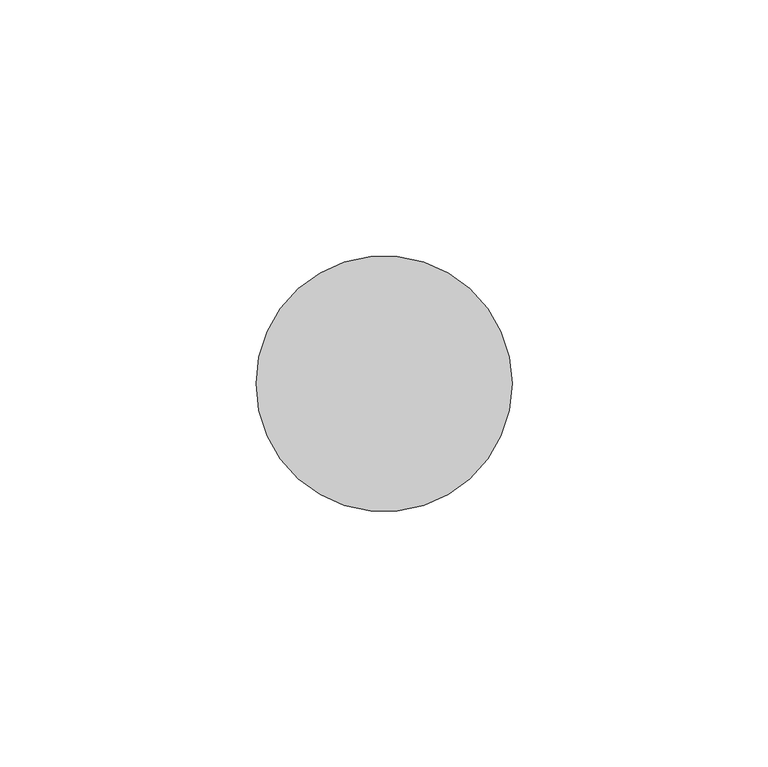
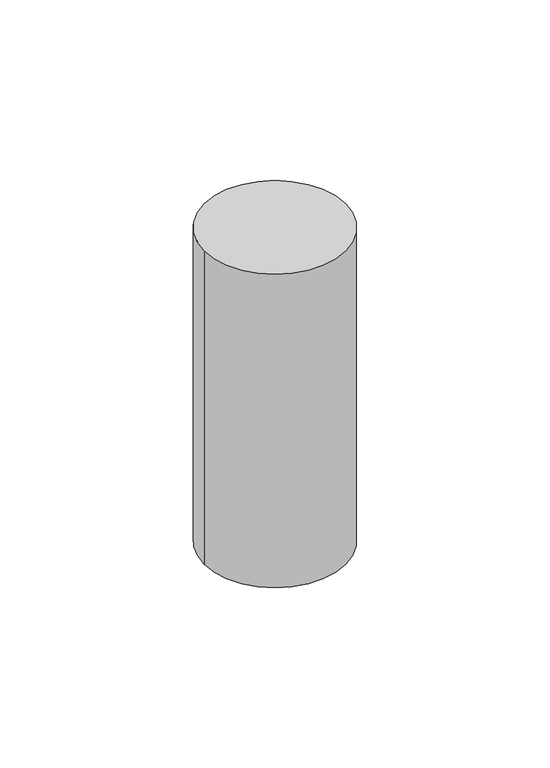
"""IFC4 building model written with IfcOpenShell, lengths in millimetres: member geometry, 圆形竖梃 : 25mm 半径."""

import ifcopenshell
import ifcopenshell.guid

model = None  # the IFC model being written
_history = None  # IfcOwnerHistory: only IFC2X3 demands one
_inside = {}  # id of a spatial element -> (the spatial element, [elements in it])
_under = {}  # id of a project, library or spatial element -> (it, [spatial elements below it])
_declared = {}  # id of a project -> (the project, [libraries it declares])
_typed = {}  # id of a type object -> (the type object, [elements of that type])
_made_of = {}  # id of a material, layer set ... -> (it, [elements and type objects made of it])


def new_model(schema):
    """Start an empty IFC model of exactly this schema.

    Asked for "IFC4X3", IfcOpenShell would pick the latest addendum, in which some entities
    have other attributes; the version numbers below select the first issue.
    IFC2X3 requires an IfcOwnerHistory on every rooted entity: one is made here for all.
    """
    global model, _history
    if schema == "IFC4X3":
        model = ifcopenshell.file(schema_version=(4, 3, 0, 0))
    else:
        model = ifcopenshell.file(schema=schema)
    _inside.clear()
    _under.clear()
    _declared.clear()
    _typed.clear()
    _made_of.clear()
    _history = None
    if model.schema == "IFC2X3":
        org = make("IfcOrganization", Name="unknown")
        user = make(
            "IfcPersonAndOrganization",
            ThePerson=make("IfcPerson", FamilyName="unknown"),
            TheOrganization=org,
        )
        app = make(
            "IfcApplication",
            ApplicationDeveloper=org,
            Version="unknown",
            ApplicationFullName="unknown",
            ApplicationIdentifier="unknown",
        )
        _history = make(
            "IfcOwnerHistory",
            OwningUser=user,
            OwningApplication=app,
            ChangeAction="ADDED",
            CreationDate=0,
        )
    return model


def make(cls, **values):
    """One entity of the class cls with the attributes given. An attribute that is None is left unset."""
    return model.create_entity(
        cls, **{name: value for name, value in values.items() if value is not None}
    )


def rooted(cls, **values):
    """An entity with a GlobalId (a new one), such as an element, a storey or a relation."""
    return make(cls, GlobalId=ifcopenshell.guid.new(), OwnerHistory=_history, **values)


def si_unit(unit_type, name, prefix=None):
    """IfcSIUnit, for example si_unit("LENGTHUNIT", "METRE", prefix="MILLI")."""
    return make("IfcSIUnit", UnitType=unit_type, Prefix=prefix, Name=name)


def assignment(units):
    """IfcUnitAssignment: the units of a project."""
    return None if units is None else make("IfcUnitAssignment", Units=units)


def point(xyz):
    """IfcCartesianPoint."""
    return None if xyz is None else make("IfcCartesianPoint", Coordinates=xyz)


def direction(xyz):
    """IfcDirection."""
    return None if xyz is None else make("IfcDirection", DirectionRatios=xyz)


def frame(location, z_axis=None, x_axis=None):
    """IfcAxis2Placement3D, a coordinate frame: its origin and axes. An axis left out is left unset."""
    return make(
        "IfcAxis2Placement3D",
        Location=point(location),
        Axis=direction(z_axis),
        RefDirection=direction(x_axis),
    )


def frame_2d(location, x_axis=None):
    """IfcAxis2Placement2D, a coordinate frame in the plane: its origin and x axis."""
    return make(
        "IfcAxis2Placement2D", Location=point(location), RefDirection=direction(x_axis)
    )


def origin():
    """The frame at (0, 0, 0) with its axes left unset."""
    return frame((0.0, 0.0, 0.0))


def place(relative_to, where):
    """IfcLocalPlacement: puts the frame where relative to a parent placement (None: the world)."""
    return make(
        "IfcLocalPlacement", PlacementRelTo=relative_to, RelativePlacement=where
    )


def context(
    kind, dimensions, precision=None, world=None, true_north=None, identifier=None
):
    """IfcGeometricRepresentationContext, for example the 3D "Model" context."""
    return make(
        "IfcGeometricRepresentationContext",
        ContextIdentifier=identifier,
        ContextType=kind,
        CoordinateSpaceDimension=dimensions,
        Precision=precision,
        WorldCoordinateSystem=world,
        TrueNorth=true_north,
    )


def project(units=None, contexts=None):
    """IfcProject with its units and contexts."""
    return rooted(
        "IfcProject",
        Name="project",
        RepresentationContexts=contexts,
        UnitsInContext=assignment(units),
    )


def spatial(cls, under=None, at=None, **own):
    """A site, building, storey or space (cls), placed at a placement, below another one or the project."""
    s = rooted(cls, ObjectPlacement=at, **own)
    if under is not None:
        _under.setdefault(under.id(), (under, []))[1].append(s)
    return s


def circle_curve(where, radius):
    """IfcCircle in the frame where."""
    return make("IfcCircle", Position=where, Radius=radius)


def trimmed(basis, trim1, trim2, sense, master):
    """IfcTrimmedCurve: the piece of a basis curve between two trims."""
    return make(
        "IfcTrimmedCurve",
        BasisCurve=basis,
        Trim1=trim1,
        Trim2=trim2,
        SenseAgreement=sense,
        MasterRepresentation=master,
    )


def segment(curve, same_sense, transition):
    """IfcCompositeCurveSegment."""
    return make(
        "IfcCompositeCurveSegment",
        Transition=transition,
        SameSense=same_sense,
        ParentCurve=curve,
    )


def composite_curve(segments, self_intersect=None):
    """IfcCompositeCurve: segments joined end to end."""
    return make("IfcCompositeCurve", Segments=segments, SelfIntersect=self_intersect)


def outline(outer, holes=None, kind="AREA"):
    """IfcArbitraryClosedProfileDef: a profile drawn as a closed curve; with holes, ...WithVoids."""
    if holes is None:
        return make("IfcArbitraryClosedProfileDef", ProfileType=kind, OuterCurve=outer)
    return make(
        "IfcArbitraryProfileDefWithVoids",
        ProfileType=kind,
        OuterCurve=outer,
        InnerCurves=holes,
    )


def extrude(swept, where, along, depth):
    """IfcExtrudedAreaSolid: the profile swept, set in the frame where, extruded along a direction by depth."""
    return make(
        "IfcExtrudedAreaSolid",
        SweptArea=swept,
        Position=where,
        ExtrudedDirection=direction(along),
        Depth=depth,
    )


def shape(context_of_items, identifier, shape_type, items):
    """IfcShapeRepresentation: the items that make up one representation, for example the "Body"."""
    return make(
        "IfcShapeRepresentation",
        ContextOfItems=context_of_items,
        RepresentationIdentifier=identifier,
        RepresentationType=shape_type,
        Items=items,
    )


def source(mapping_origin, context_of_items, identifier, shape_type, items):
    """IfcRepresentationMap: a shape defined once, which mapped items show again and again."""
    return make(
        "IfcRepresentationMap",
        MappingOrigin=mapping_origin,
        MappedRepresentation=shape(context_of_items, identifier, shape_type, items),
    )


def transform(
    local_origin,
    x_axis=None,
    y_axis=None,
    z_axis=None,
    scale=None,
    scale2=None,
    scale3=None,
    uniform=True,
):
    """IfcCartesianTransformationOperator3D, or its non-uniform kind. x_axis, y_axis, z_axis: its Axis1, 2, 3."""
    if uniform:
        return make(
            "IfcCartesianTransformationOperator3D",
            Axis1=direction(x_axis),
            Axis2=direction(y_axis),
            LocalOrigin=point(local_origin),
            Scale=scale,
            Axis3=direction(z_axis),
        )
    return make(
        "IfcCartesianTransformationOperator3DnonUniform",
        Axis1=direction(x_axis),
        Axis2=direction(y_axis),
        LocalOrigin=point(local_origin),
        Scale=scale,
        Axis3=direction(z_axis),
        Scale2=scale2,
        Scale3=scale3,
    )


def mapped(mapping_source, mapping_target):
    """IfcMappedItem: shows the shape of a source again, moved by a transform."""
    return make(
        "IfcMappedItem", MappingSource=mapping_source, MappingTarget=mapping_target
    )


def made_of(thing, what):
    """Note that an element or type object is made of a material, layer set ...; save() writes the relation."""
    if what is not None:
        _made_of.setdefault(what.id(), (what, []))[1].append(thing)
    return thing


def element(
    cls,
    number,
    at=None,
    inside=None,
    cuts=None,
    type_object=None,
    material=None,
    context=None,
    identifier="Body",
    shape_type=None,
    held_by="IfcProductDefinitionShape",
    body=None,
    shapes=None,
    **own,
):
    """One element of the class cls, such as IfcWall. Its Tag is "e" and its number.

    at: its placement. inside: the storey or other place that contains it. cuts: it is an
    opening in that element (IfcRelVoidsElement). A single representation is given by context,
    identifier, shape_type and body (its items); several are given by shapes. held_by: the class
    of the entity that holds the representations. save() writes the other relations.
    """
    e = rooted(cls, Tag="e%d" % number, ObjectPlacement=at, **own)
    if body is not None:
        shapes = [shape(context, identifier, shape_type, body)]
    if shapes is not None:
        e.Representation = make(held_by, Representations=shapes)
    if inside is not None:
        _inside.setdefault(inside.id(), (inside, []))[1].append(e)
    if cuts is not None:
        rooted(
            "IfcRelVoidsElement", RelatingBuildingElement=cuts, RelatedOpeningElement=e
        )
    if type_object is not None:
        _typed.setdefault(type_object.id(), (type_object, []))[1].append(e)
    return made_of(e, material)


def aggregate(whole, parts):
    """IfcRelAggregates: a whole, such as a stair, and the parts it consists of."""
    return rooted("IfcRelAggregates", RelatingObject=whole, RelatedObjects=parts)


def save(model, path):
    """Write the relations noted so far, then the file.

    IfcRelAggregates (storeys below a building ...), IfcRelContainedInSpatialStructure (elements
    in a storey), IfcRelDefinesByType, IfcRelAssociatesMaterial and IfcRelDeclares: one each for
    every whole, place, type object, material and project.
    """
    for whole, parts in _under.values():
        aggregate(whole, parts)
    for where, things in _inside.values():
        rooted(
            "IfcRelContainedInSpatialStructure",
            RelatedElements=things,
            RelatingStructure=where,
        )
    for kind, things in _typed.values():
        rooted("IfcRelDefinesByType", RelatedObjects=things, RelatingType=kind)
    for what, things in _made_of.values():
        rooted("IfcRelAssociatesMaterial", RelatedObjects=things, RelatingMaterial=what)
    for by, libraries in _declared.values():
        rooted("IfcRelDeclares", RelatingContext=by, RelatedDefinitions=libraries)
    model.write(path)


def member_65f70824(model_context):
    return source(origin(), model_context, "Body", "SweptSolid", [
        extrude(outline(composite_curve([segment(trimmed(circle_curve(frame_2d((-25.0, 0.0)), 25.0), [point((0.0, 0.0))], [point((-50.0, 0.0))], False, "CARTESIAN"), True, "CONTINUOUS"), segment(trimmed(circle_curve(frame_2d((-25.0, 0.0)), 25.0), [point((-50.0, 0.0))], [point((0.0, 0.0))], False, "CARTESIAN"), True, "CONTINUOUS")], self_intersect=False)), frame((0.0, 0.0, -117.1572872), z_axis=(0.0, 0.0, 1.0), x_axis=(1.0, 0.0, 0.0)), (0.0, 0.0, 1.0), 117.1572872),
    ])


if __name__ == "__main__":
    model = new_model("IFC4")
    model_context = context("Model", 3, world=origin())
    ifc_project = project(units=[si_unit("LENGTHUNIT", "METRE", prefix="MILLI")], contexts=[model_context])
    site = spatial("IfcSite", under=ifc_project)
    building = spatial("IfcBuilding", under=site)
    placement = place(None, origin())
    member_shape = member_65f70824(model_context)
    element("IfcMember", 1, ObjectType="圆形竖梃 : 25mm 半径", at=placement, inside=building, context=model_context, shape_type="MappedRepresentation", body=[
        mapped(member_shape, transform((0.0, 0.0, 0.0), x_axis=(1.0, 0.0, 0.0), y_axis=(0.0, 1.0, 0.0), z_axis=(0.0, 0.0, 1.0))),
    ])
    save(model, "model.ifc")
